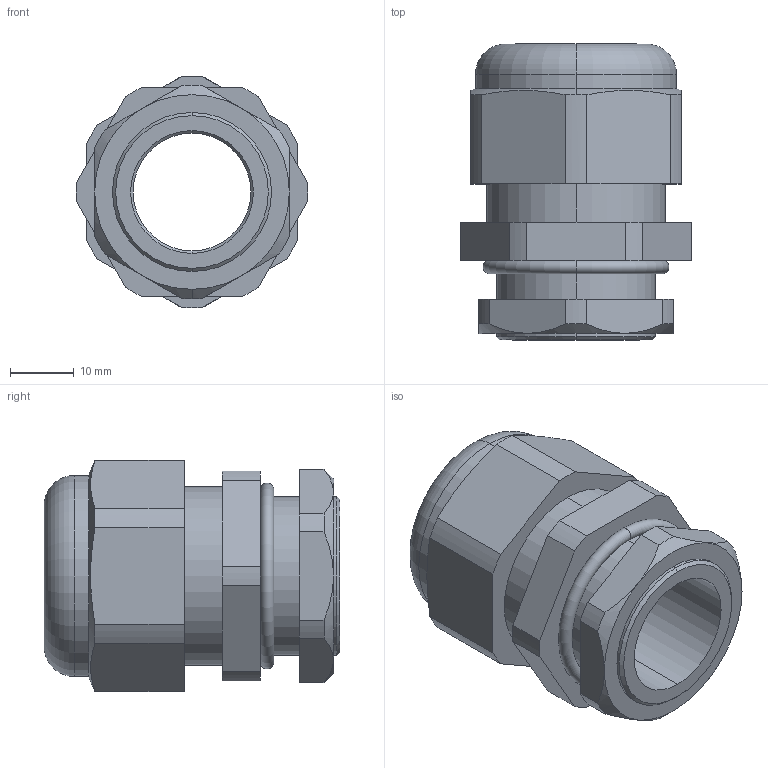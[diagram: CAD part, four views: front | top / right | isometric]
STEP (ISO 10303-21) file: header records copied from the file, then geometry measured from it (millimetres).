
FILE_DESCRIPTION (( 'STEP AP203' ), '1' );
FILE_NAME ('CH-M25.STEP', '2018-02-07T14:45:38', ( '' ), ( '' ), 'SwSTEP 2.0', 'SolidWorks 2012', '' );
FILE_SCHEMA (( 'CONFIG_CONTROL_DESIGN' ));
Length unit declared in the file: millimetre
Products named in the file (1): CH-M25
Bounding box: 36.44 x 46.5 x 36.4 mm (x, y, z)
Volume: 23321.9 mm3; surface area: 9948.9 mm2
Topology: 1 solids, 1 shells, 78 faces, 189 edges, 118 vertices
Faces by surface type: cylinder 34, plane 25, cone 15, torus 4
Entity records: 2478 total; most frequent: CARTESIAN_POINT 532, DIRECTION 415, ORIENTED_EDGE 378, EDGE_CURVE 189, AXIS2_PLACEMENT_3D 165, VERTEX_POINT 118, CIRCLE 86, LINE 85
